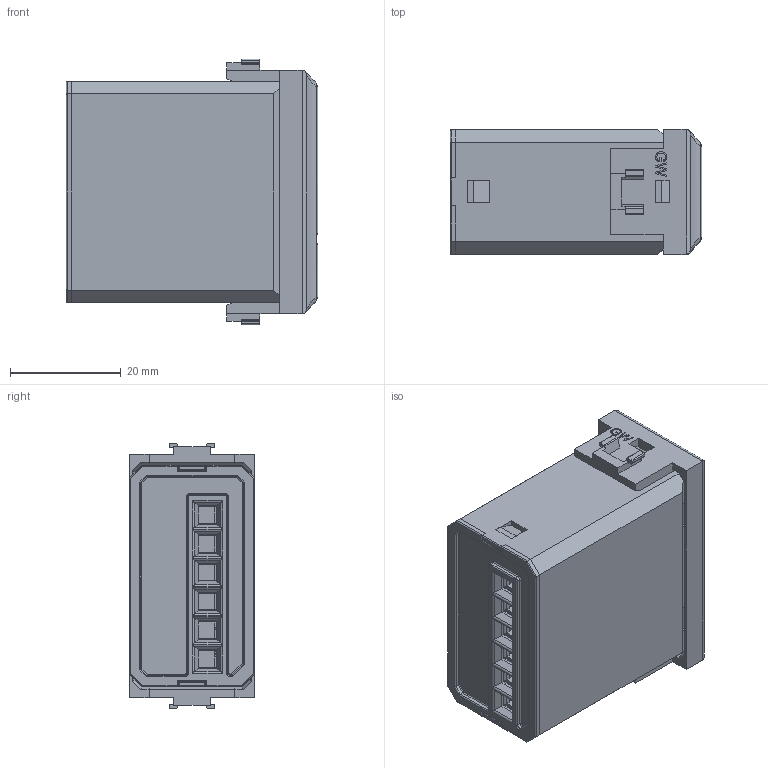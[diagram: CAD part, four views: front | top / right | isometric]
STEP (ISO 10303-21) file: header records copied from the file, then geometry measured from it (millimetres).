
FILE_DESCRIPTION(/* description */ ('Unknown'),/* implementation_level */ '2;1');
FILE_NAME(/* name */ '1372 Bianco GW',/* time_stamp */ '2018-10-19T15:37:42+02:00',/* author */ ('Unknown'),/* organization */ ('Unknown'),/* preprocessor_version */ 'ST-DEVELOPER v16.7',/* originating_system */ 'DEX',/* authorisation */ $);
FILE_SCHEMA (('AUTOMOTIVE_DESIGN {1 0 10303 214 3 1 1}'));
Length unit declared in the file: millimetre
Products named in the file (1): 1372 Bianco GW
Bounding box: 45.5 x 22.5 x 48 mm (x, y, z)
Surface area: 12534.6 mm2 (no closed solid volume)
Topology: 0 solids, 90 shells, 1065 faces, 4134 edges, 3074 vertices
Faces by surface type: plane 785, cylinder 206, torus 26, cone 25, bspline 19, sphere 4
Full cylindrical faces by diameter (mm): 4.2 x6
Entity records: 43359 total; most frequent: CARTESIAN_POINT 9102, DIRECTION 6598, ORIENTED_EDGE 6255, EDGE_CURVE 4100, LINE 3390, VECTOR 3390, VERTEX_POINT 3061, AXIS2_PLACEMENT_3D 1604
